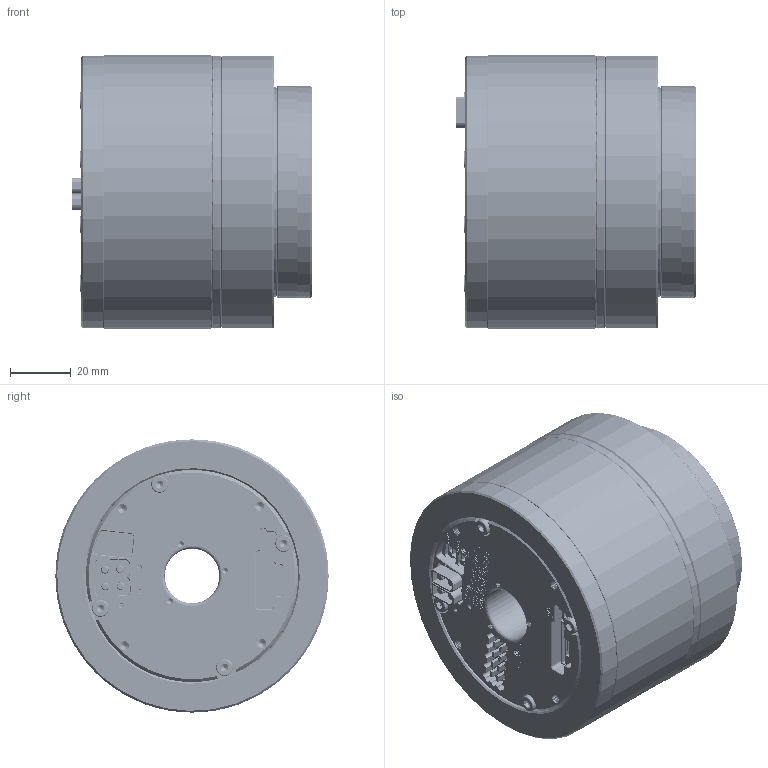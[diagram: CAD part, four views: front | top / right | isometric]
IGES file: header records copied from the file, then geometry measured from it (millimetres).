
Start section: SolidWorks IGES file using analytic representation for surfaces
Global section: file name: C:\Users\Administrator\Desktop\eRob90H｡ﾁ｡ﾁI-XX-18CX_V6_MC2E.DX.XX.IGS; native system: SolidWorks 2021; preprocessor: SolidWorks 2021; author: ZERO; date: 241212.202252; units: millimetre
Bounding box: 79 x 90 x 90 mm (x, y, z)
Volume: 422401 mm3; surface area: 51237 mm2
Topology: 1 solids, 1 shells, 4481 faces, 11941 edges, 7669 vertices
Faces by surface type: plane 2220, revolution 1837, bspline 424
